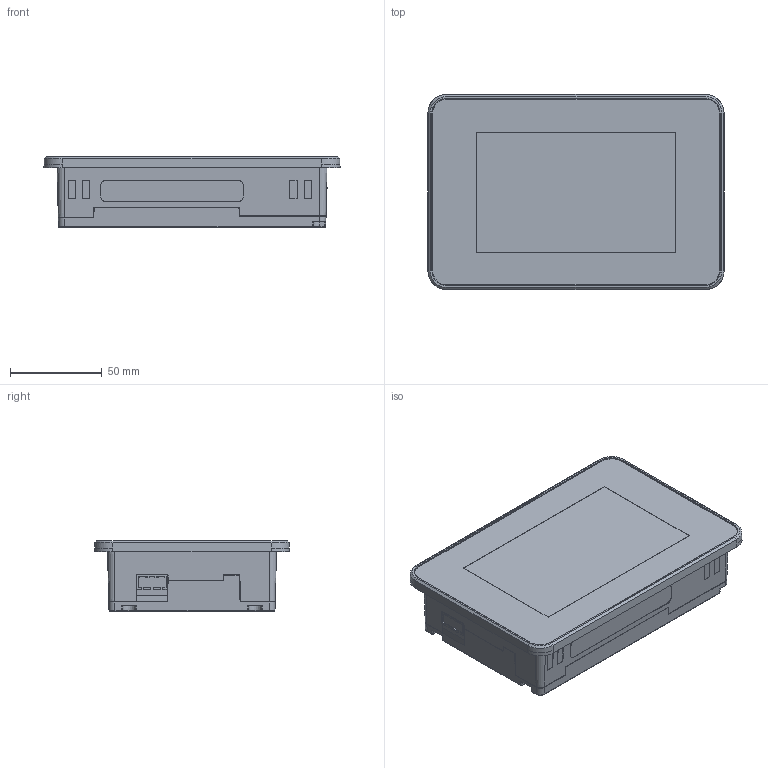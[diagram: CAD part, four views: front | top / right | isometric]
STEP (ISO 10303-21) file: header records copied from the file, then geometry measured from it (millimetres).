
FILE_DESCRIPTION (( 'STEP AP203' ), '1' );
FILE_NAME ('UniStream 5 - Lite Panel1.STEP', '2019-01-22T10:13:06', ( '' ), ( '' ), 'SwSTEP 2.0', 'SolidWorks 2017', '' );
FILE_SCHEMA (( 'CONFIG_CONTROL_DESIGN' ));
Products named in the file (1): UniStream 5 - Lite Panel1
Bounding box: 161.31 x 106.31 x 38.5 mm (x, y, z)
Volume: 518757.8 mm3; surface area: 55327.3 mm2
Topology: 1 solids, 1 shells, 1104 faces, 2956 edges, 1944 vertices
Faces by surface type: plane 669, cone 184, bspline 157, cylinder 94
Entity records: 47370 total; most frequent: CARTESIAN_POINT 22397, ORIENTED_EDGE 5908, DIRECTION 3820, EDGE_CURVE 2954, VERTEX_POINT 1944, VECTOR 1738, LINE 1738, EDGE_LOOP 1198
